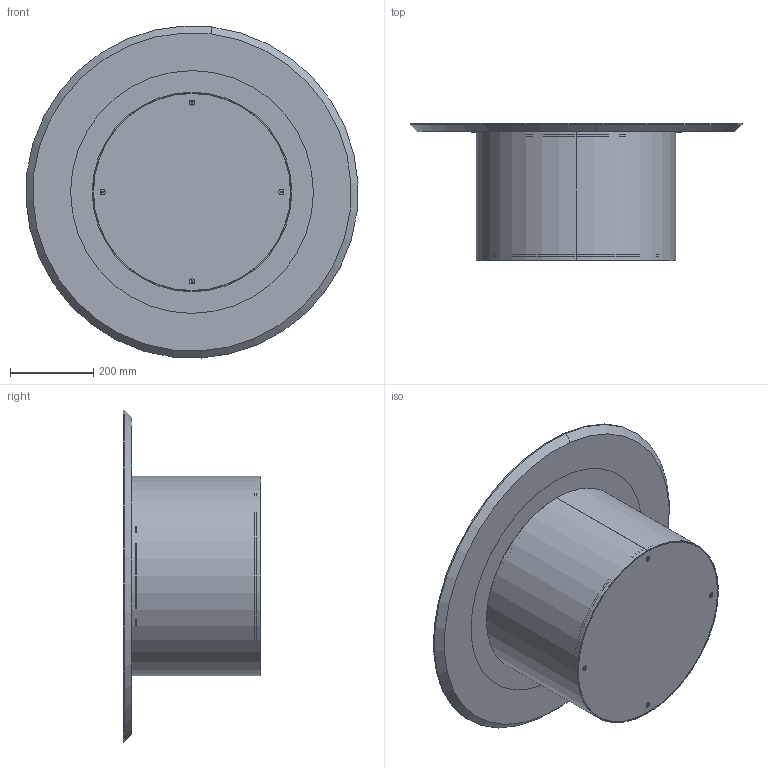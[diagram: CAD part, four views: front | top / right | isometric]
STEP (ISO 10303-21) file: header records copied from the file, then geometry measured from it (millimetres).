
FILE_DESCRIPTION (( 'STEP AP203' ), '1' );
FILE_NAME ('CL12W.STEP', '2024-08-06T10:16:24', ( '' ), ( '' ), 'SwSTEP 2.0', 'SolidWorks 2022', '' );
FILE_SCHEMA (( 'CONFIG_CONTROL_DESIGN' ));
Length unit declared in the file: millimetre
Products named in the file (11): W1XCMXX-00-Piani Rotondi legno_D.800 SP.20cm; P0000006-00-PIASTRA D.150mm X PIANI CER_CRI_MARMO_PIASTRA; CLB1000000_04-00-Supporto Zavorra fusto D.48cm; CLB1000000_01-00-Supporto piano fusto D.48cm; M6xXXmm_HEX_M6x20mm HEX; CL12W; CLB1000000-00-CILINDRO LOW D.48cm BASE GREZZA; CLB1000000_03-00-Zavorra cilindro low D.48cm; CLB1000000_02-00-Fusto centrale d.48cm; K1XCMXX-00-Piani Rotondi in ceramica_D.600; KXXCXX-00-Piani Rotondi in ceramica CON PIASTRA_K01P PIANO CERAMICA D.60cm
Assembly tree (13 placements, depth 3):
  CL12W
    CLB1000000-00-CILINDRO LOW D.48cm BASE GREZZA
      CLB1000000_02-00-Fusto centrale d.48cm
      CLB1000000_03-00-Zavorra cilindro low D.48cm
      CLB1000000_01-00-Supporto piano fusto D.48cm
      CLB1000000_04-00-Supporto Zavorra fusto D.48cm
      M6xXXmm_HEX_M6x20mm HEX  x4
    W1XCMXX-00-Piani Rotondi legno_D.800 SP.20cm
    KXXCXX-00-Piani Rotondi in ceramica CON PIASTRA_K01P PIANO CERAMICA D.60cm
      K1XCMXX-00-Piani Rotondi in ceramica_D.600
      P0000006-00-PIASTRA D.150mm X PIANI CER_CRI_MARMO_PIASTRA
Bounding box: 798.81 x 330 x 798.81 mm (x, y, z)
Volume: 17481571.6 mm3; surface area: 3808800.3 mm2
Topology: 14 solids, 14 shells, 259 faces, 559 edges, 320 vertices
Faces by surface type: plane 114, cylinder 85, cone 50, torus 8, bspline 2
Entity records: 5996 total; most frequent: CARTESIAN_POINT 1115, DIRECTION 835, ORIENTED_EDGE 690, EDGE_CURVE 345, AXIS2_PLACEMENT_3D 341, VERTEX_POINT 215, EDGE_LOOP 196, CIRCLE 168
